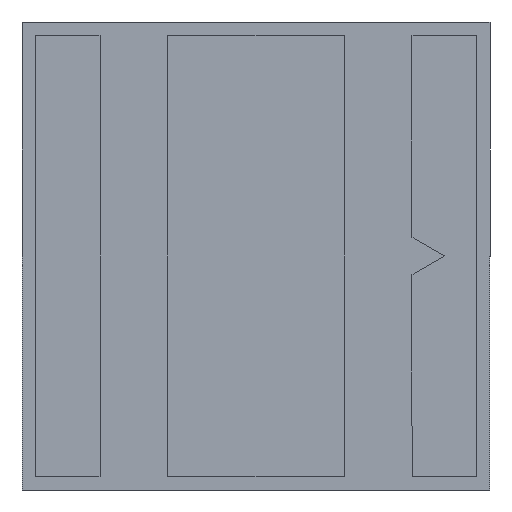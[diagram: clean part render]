
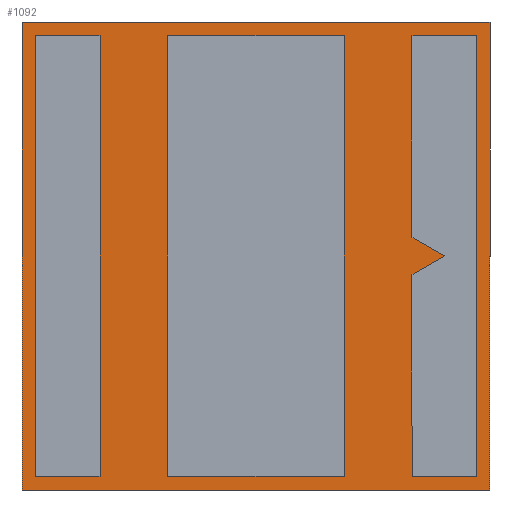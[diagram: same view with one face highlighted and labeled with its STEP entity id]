
A CAD part, front view. The second image highlights one B-rep face of the part: STEP entity #1092.
In plain terms, the highlighted planar face has unit normal (0, -1, 0).
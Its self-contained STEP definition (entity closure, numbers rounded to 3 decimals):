
#34 = ORIENTED_EDGE ( 'NONE', *, *, #674, .F. ) ;
#36 = DIRECTION ( 'NONE',  ( -1., 0., 0. ) ) ;
#41 = LINE ( 'NONE', #1047, #116 ) ;
#44 = CARTESIAN_POINT ( 'NONE',  ( 1.15, 0., -1.625 ) ) ;
#55 = CARTESIAN_POINT ( 'NONE',  ( 1.387, 0., 0. ) ) ;
#72 = CARTESIAN_POINT ( 'NONE',  ( -1.725, 0., 1.725 ) ) ;
#74 = LINE ( 'NONE', #217, #796 ) ;
#82 = CARTESIAN_POINT ( 'NONE',  ( -1.725, 0., -1.725 ) ) ;
#88 = VECTOR ( 'NONE', #178, 1000. ) ;
#90 = CARTESIAN_POINT ( 'NONE',  ( 0.65, 0., 1.625 ) ) ;
#92 = CARTESIAN_POINT ( 'NONE',  ( 0.65, 0., 1.625 ) ) ;
#93 = FACE_BOUND ( 'NONE', #556, .T. ) ;
#105 = LINE ( 'NONE', #361, #1181 ) ;
#116 = VECTOR ( 'NONE', #1041, 1000. ) ;
#118 = CARTESIAN_POINT ( 'NONE',  ( 1.387, 0., 0. ) ) ;
#122 = ORIENTED_EDGE ( 'NONE', *, *, #763, .F. ) ;
#140 = ORIENTED_EDGE ( 'NONE', *, *, #551, .F. ) ;
#143 = VECTOR ( 'NONE', #360, 1000. ) ;
#144 = EDGE_CURVE ( 'NONE', #879, #1108, #426, .T. ) ;
#152 = ORIENTED_EDGE ( 'NONE', *, *, #336, .F. ) ;
#161 = ORIENTED_EDGE ( 'NONE', *, *, #662, .F. ) ;
#164 = DIRECTION ( 'NONE',  ( -1., 0., 0. ) ) ;
#171 = VECTOR ( 'NONE', #1076, 1000. ) ;
#173 = CARTESIAN_POINT ( 'NONE',  ( -1.15, 0., 1.625 ) ) ;
#178 = DIRECTION ( 'NONE',  ( 0., 0., 1. ) ) ;
#184 = ORIENTED_EDGE ( 'NONE', *, *, #905, .F. ) ;
#185 = CARTESIAN_POINT ( 'NONE',  ( 1.725, 0., 1.725 ) ) ;
#190 = VERTEX_POINT ( 'NONE', #1059 ) ;
#205 = CARTESIAN_POINT ( 'NONE',  ( 1.725, 0., -1.725 ) ) ;
#217 = CARTESIAN_POINT ( 'NONE',  ( 1.625, 0., 1.625 ) ) ;
#218 = EDGE_CURVE ( 'NONE', #1108, #667, #274, .T. ) ;
#220 = ORIENTED_EDGE ( 'NONE', *, *, #356, .F. ) ;
#223 = CARTESIAN_POINT ( 'NONE',  ( 1.387, 0., 0. ) ) ;
#226 = CARTESIAN_POINT ( 'NONE',  ( 1.15, 0., -0.137 ) ) ;
#243 = VERTEX_POINT ( 'NONE', #223 ) ;
#248 = CARTESIAN_POINT ( 'NONE',  ( -1.625, 0., -1.625 ) ) ;
#254 = VERTEX_POINT ( 'NONE', #72 ) ;
#256 = VERTEX_POINT ( 'NONE', #645 ) ;
#274 = LINE ( 'NONE', #707, #975 ) ;
#281 = ORIENTED_EDGE ( 'NONE', *, *, #594, .F. ) ;
#282 = ORIENTED_EDGE ( 'NONE', *, *, #144, .F. ) ;
#287 = CARTESIAN_POINT ( 'NONE',  ( -1.625, 0., 1.625 ) ) ;
#288 = ORIENTED_EDGE ( 'NONE', *, *, #218, .F. ) ;
#300 = ORIENTED_EDGE ( 'NONE', *, *, #769, .F. ) ;
#302 = ORIENTED_EDGE ( 'NONE', *, *, #837, .F. ) ;
#322 = DIRECTION ( 'NONE',  ( 1., 0., 0. ) ) ;
#336 = EDGE_CURVE ( 'NONE', #667, #786, #105, .T. ) ;
#350 = EDGE_CURVE ( 'NONE', #427, #710, #797, .T. ) ;
#351 = VECTOR ( 'NONE', #1115, 1000. ) ;
#356 = EDGE_CURVE ( 'NONE', #254, #427, #979, .T. ) ;
#360 = DIRECTION ( 'NONE',  ( 0., 0., -1. ) ) ;
#361 = CARTESIAN_POINT ( 'NONE',  ( 1.625, 0., -1.625 ) ) ;
#377 = VERTEX_POINT ( 'NONE', #90 ) ;
#385 = EDGE_CURVE ( 'NONE', #710, #497, #900, .T. ) ;
#395 = VERTEX_POINT ( 'NONE', #1174 ) ;
#397 = LINE ( 'NONE', #1180, #143 ) ;
#398 = VECTOR ( 'NONE', #840, 1000. ) ;
#426 = LINE ( 'NONE', #226, #792 ) ;
#427 = VERTEX_POINT ( 'NONE', #185 ) ;
#430 = DIRECTION ( 'NONE',  ( 0.866, 0., -0.5 ) ) ;
#434 = CARTESIAN_POINT ( 'NONE',  ( 1.625, 0., 1.625 ) ) ;
#438 = CARTESIAN_POINT ( 'NONE',  ( -0.65, 0., 1.625 ) ) ;
#462 = CARTESIAN_POINT ( 'NONE',  ( -0.65, 0., -1.625 ) ) ;
#466 = LINE ( 'NONE', #462, #171 ) ;
#471 = DIRECTION ( 'NONE',  ( -1., 0., 0. ) ) ;
#472 = EDGE_CURVE ( 'NONE', #190, #377, #1022, .T. ) ;
#480 = FACE_OUTER_BOUND ( 'NONE', #1070, .T. ) ;
#497 = VERTEX_POINT ( 'NONE', #82 ) ;
#536 = VECTOR ( 'NONE', #954, 1000. ) ;
#546 = CARTESIAN_POINT ( 'NONE',  ( 1.15, 0., -0.137 ) ) ;
#551 = EDGE_CURVE ( 'NONE', #497, #254, #579, .T. ) ;
#556 = EDGE_LOOP ( 'NONE', ( #288, #282, #34, #300, #161, #851, #152 ) ) ;
#575 = VERTEX_POINT ( 'NONE', #287 ) ;
#579 = LINE ( 'NONE', #587, #351 ) ;
#587 = CARTESIAN_POINT ( 'NONE',  ( -1.725, 0., -1.725 ) ) ;
#589 = VERTEX_POINT ( 'NONE', #780 ) ;
#592 = CARTESIAN_POINT ( 'NONE',  ( 0.65, 0., 1.625 ) ) ;
#594 = EDGE_CURVE ( 'NONE', #377, #1072, #899, .T. ) ;
#599 = CARTESIAN_POINT ( 'NONE',  ( -0.65, 0., -1.625 ) ) ;
#608 = DIRECTION ( 'NONE',  ( 0., 0., -1. ) ) ;
#610 = DIRECTION ( 'NONE',  ( 0., 0., 1. ) ) ;
#613 = ORIENTED_EDGE ( 'NONE', *, *, #824, .F. ) ;
#619 = LINE ( 'NONE', #173, #1096 ) ;
#620 = DIRECTION ( 'NONE',  ( 1., 0., 0. ) ) ;
#645 = CARTESIAN_POINT ( 'NONE',  ( 1.15, 0., 1.625 ) ) ;
#654 = LINE ( 'NONE', #832, #88 ) ;
#662 = EDGE_CURVE ( 'NONE', #256, #589, #41, .T. ) ;
#667 = VERTEX_POINT ( 'NONE', #785 ) ;
#669 = VECTOR ( 'NONE', #933, 1000. ) ;
#674 = EDGE_CURVE ( 'NONE', #243, #879, #784, .T. ) ;
#680 = VERTEX_POINT ( 'NONE', #599 ) ;
#684 = EDGE_CURVE ( 'NONE', #786, #256, #74, .T. ) ;
#707 = CARTESIAN_POINT ( 'NONE',  ( 1.15, 0., -1.625 ) ) ;
#710 = VERTEX_POINT ( 'NONE', #205 ) ;
#720 = LINE ( 'NONE', #248, #1198 ) ;
#723 = CARTESIAN_POINT ( 'NONE',  ( -0.65, 0., 1.625 ) ) ;
#757 = CARTESIAN_POINT ( 'NONE',  ( 1.725, 0., -1.725 ) ) ;
#763 = EDGE_CURVE ( 'NONE', #1072, #680, #1035, .T. ) ;
#769 = EDGE_CURVE ( 'NONE', #589, #243, #812, .T. ) ;
#774 = VECTOR ( 'NONE', #164, 1000. ) ;
#780 = CARTESIAN_POINT ( 'NONE',  ( 1.15, 0., 0.137 ) ) ;
#784 = LINE ( 'NONE', #118, #536 ) ;
#785 = CARTESIAN_POINT ( 'NONE',  ( 1.625, 0., -1.625 ) ) ;
#786 = VERTEX_POINT ( 'NONE', #434 ) ;
#792 = VECTOR ( 'NONE', #608, 1000. ) ;
#796 = VECTOR ( 'NONE', #36, 1000. ) ;
#797 = LINE ( 'NONE', #757, #942 ) ;
#810 = ORIENTED_EDGE ( 'NONE', *, *, #878, .F. ) ;
#812 = LINE ( 'NONE', #55, #1009 ) ;
#824 = EDGE_CURVE ( 'NONE', #680, #190, #466, .T. ) ;
#827 = DIRECTION ( 'NONE',  ( 0., 0., 1. ) ) ;
#830 = VERTEX_POINT ( 'NONE', #911 ) ;
#832 = CARTESIAN_POINT ( 'NONE',  ( -1.15, 0., 1.625 ) ) ;
#836 = DIRECTION ( 'NONE',  ( 1., 0., 0. ) ) ;
#837 = EDGE_CURVE ( 'NONE', #575, #395, #397, .T. ) ;
#840 = DIRECTION ( 'NONE',  ( 0., 0., 1. ) ) ;
#843 = ORIENTED_EDGE ( 'NONE', *, *, #472, .F. ) ;
#851 = ORIENTED_EDGE ( 'NONE', *, *, #684, .F. ) ;
#856 = ORIENTED_EDGE ( 'NONE', *, *, #385, .F. ) ;
#863 = FACE_BOUND ( 'NONE', #949, .T. ) ;
#868 = ORIENTED_EDGE ( 'NONE', *, *, #350, .F. ) ;
#878 = EDGE_CURVE ( 'NONE', #1134, #575, #619, .T. ) ;
#879 = VERTEX_POINT ( 'NONE', #546 ) ;
#892 = DIRECTION ( 'NONE',  ( 0., 1., 0. ) ) ;
#899 = LINE ( 'NONE', #592, #669 ) ;
#900 = LINE ( 'NONE', #1193, #774 ) ;
#905 = EDGE_CURVE ( 'NONE', #830, #1134, #654, .T. ) ;
#911 = CARTESIAN_POINT ( 'NONE',  ( -1.15, 0., -1.625 ) ) ;
#912 = DIRECTION ( 'NONE',  ( 0., 0., -1. ) ) ;
#933 = DIRECTION ( 'NONE',  ( -1., 0., 0. ) ) ;
#942 = VECTOR ( 'NONE', #912, 1000. ) ;
#949 = EDGE_LOOP ( 'NONE', ( #281, #843, #613, #122 ) ) ;
#954 = DIRECTION ( 'NONE',  ( -0.866, 0., -0.5 ) ) ;
#965 = DIRECTION ( 'NONE',  ( 0., 0., -1. ) ) ;
#973 = PLANE ( 'NONE',  #1145 ) ;
#975 = VECTOR ( 'NONE', #322, 1000. ) ;
#977 = VECTOR ( 'NONE', #965, 1000. ) ;
#979 = LINE ( 'NONE', #1012, #1079 ) ;
#1009 = VECTOR ( 'NONE', #430, 1000. ) ;
#1012 = CARTESIAN_POINT ( 'NONE',  ( -1.725, 0., 1.725 ) ) ;
#1022 = LINE ( 'NONE', #92, #398 ) ;
#1035 = LINE ( 'NONE', #723, #977 ) ;
#1041 = DIRECTION ( 'NONE',  ( 0., 0., -1. ) ) ;
#1047 = CARTESIAN_POINT ( 'NONE',  ( 1.15, 0., 1.625 ) ) ;
#1059 = CARTESIAN_POINT ( 'NONE',  ( 0.65, 0., -1.625 ) ) ;
#1065 = FACE_BOUND ( 'NONE', #1148, .T. ) ;
#1070 = EDGE_LOOP ( 'NONE', ( #140, #856, #868, #220 ) ) ;
#1072 = VERTEX_POINT ( 'NONE', #438 ) ;
#1076 = DIRECTION ( 'NONE',  ( 1., 0., 0. ) ) ;
#1079 = VECTOR ( 'NONE', #836, 1000. ) ;
#1082 = EDGE_CURVE ( 'NONE', #395, #830, #720, .T. ) ;
#1092 = ADVANCED_FACE ( 'NONE', ( #1065, #480, #863, #93 ), #973, .F. ) ;
#1096 = VECTOR ( 'NONE', #471, 1000. ) ;
#1108 = VERTEX_POINT ( 'NONE', #44 ) ;
#1115 = DIRECTION ( 'NONE',  ( 0., 0., 1. ) ) ;
#1116 = CARTESIAN_POINT ( 'NONE',  ( -1.15, 0., 1.625 ) ) ;
#1134 = VERTEX_POINT ( 'NONE', #1116 ) ;
#1145 = AXIS2_PLACEMENT_3D ( 'NONE', #1161, #892, #610 ) ;
#1148 = EDGE_LOOP ( 'NONE', ( #810, #184, #1188, #302 ) ) ;
#1161 = CARTESIAN_POINT ( 'NONE',  ( 0., 0., 0. ) ) ;
#1174 = CARTESIAN_POINT ( 'NONE',  ( -1.625, 0., -1.625 ) ) ;
#1180 = CARTESIAN_POINT ( 'NONE',  ( -1.625, 0., 1.625 ) ) ;
#1181 = VECTOR ( 'NONE', #827, 1000. ) ;
#1188 = ORIENTED_EDGE ( 'NONE', *, *, #1082, .F. ) ;
#1193 = CARTESIAN_POINT ( 'NONE',  ( -1.725, 0., -1.725 ) ) ;
#1198 = VECTOR ( 'NONE', #620, 1000. ) ;
